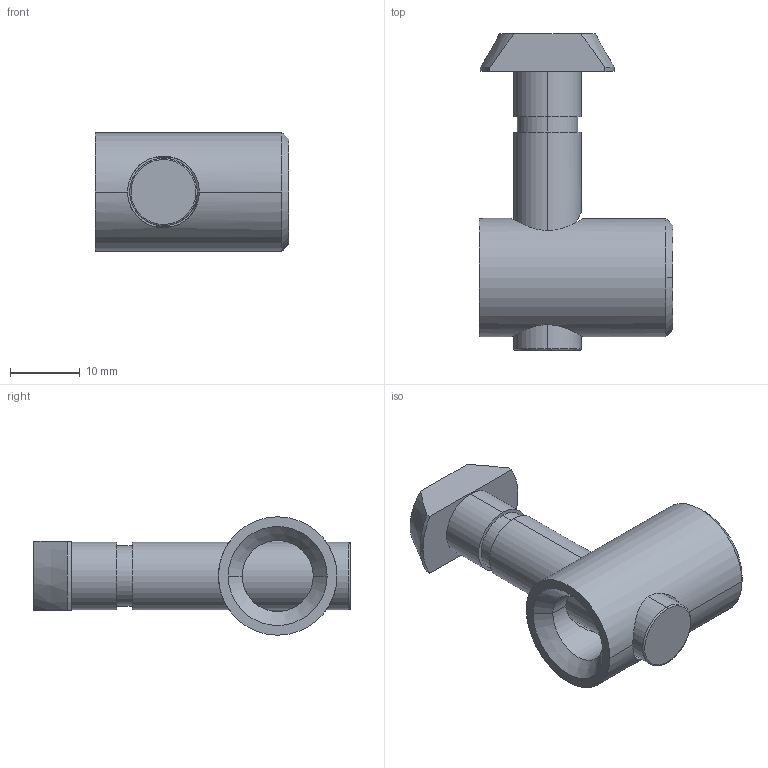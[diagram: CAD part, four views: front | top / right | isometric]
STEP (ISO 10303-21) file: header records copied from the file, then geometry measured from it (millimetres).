
FILE_DESCRIPTION (( 'STEP AP203' ), '1' );
FILE_NAME ('5213.STEP', '2016-04-25T06:01:29', ( 'RosInstal-MKM' ), ( '' ), 'SwSTEP 2.0', 'SolidWorks 2014', '' );
FILE_SCHEMA (( 'CONFIG_CONTROL_DESIGN' ));
Length unit declared in the file: millimetre
Products named in the file (4): D75SNSD.30.50.30 Tªðúðý_T16C17_00; D75SNSD.30.50.31 T糶泣T16C17_00; 5213; SNSD.30.50.49 ｦ_D75_00
Assembly tree (3 placements, depth 2):
  5213
    SNSD.30.50.49 ｦ_D75_00
    D75SNSD.30.50.30 Tªðúðý_T16C17_00
    D75SNSD.30.50.31 T糶泣T16C17_00
Bounding box: 27.8 x 45.4 x 17 mm (x, y, z)
Volume: 7847.4 mm3; surface area: 5135.2 mm2
Topology: 3 solids, 3 shells, 57 faces, 138 edges, 90 vertices
Faces by surface type: plane 25, cylinder 18, cone 10, bspline 4
Entity records: 2650 total; most frequent: CARTESIAN_POINT 937, ORIENTED_EDGE 276, DIRECTION 266, EDGE_CURVE 138, AXIS2_PLACEMENT_3D 107, VERTEX_POINT 90, EDGE_LOOP 66, ADVANCED_FACE 57
